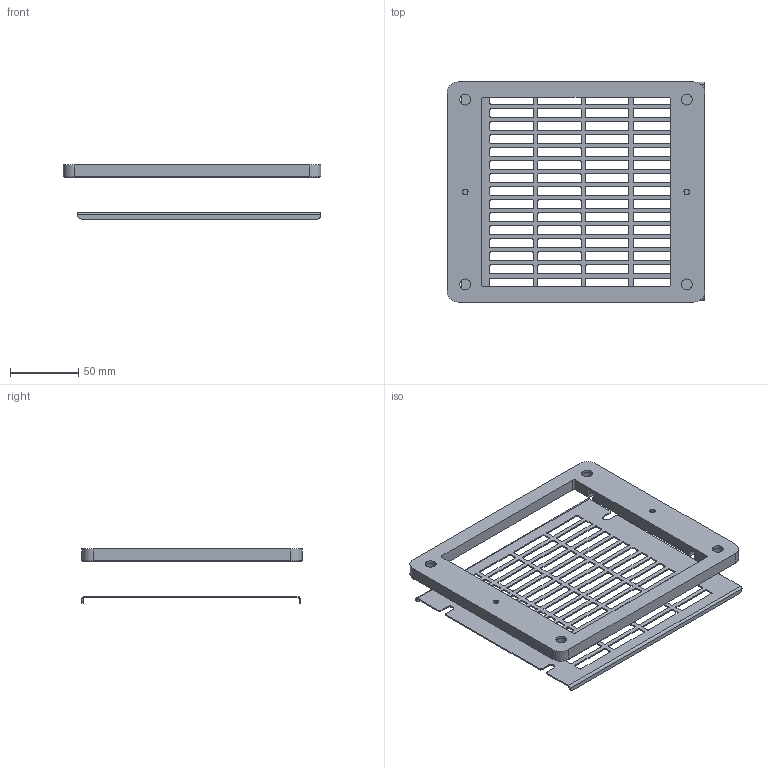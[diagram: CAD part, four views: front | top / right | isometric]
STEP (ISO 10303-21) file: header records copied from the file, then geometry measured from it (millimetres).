
FILE_DESCRIPTION (( 'STEP AP214' ), '1' );
FILE_NAME ('T4EMC.STEP', '2018-08-30T16:03:36', ( '' ), ( '' ), 'SwSTEP 2.0', 'SolidWorks 2016', '' );
FILE_SCHEMA (( 'AUTOMOTIVE_DESIGN' ));
Length unit declared in the file: inch
Products named in the file (3): 87742412; 87558509; T4EMC
Assembly tree (2 placements, depth 2):
  T4EMC
    87558509
    87742412
Bounding box: 188.59 x 161.04 x 39.69 mm (x, y, z)
Volume: 114440.2 mm3; surface area: 75389.4 mm2
Topology: 2 solids, 2 shells, 644 faces, 1878 edges, 1244 vertices
Faces by surface type: plane 326, cylinder 310, cone 8
Entity records: 21838 total; most frequent: DIRECTION 3796, CARTESIAN_POINT 3795, ORIENTED_EDGE 3756, EDGE_CURVE 1878, AXIS2_PLACEMENT_3D 1277, VERTEX_POINT 1244, VECTOR 1242, LINE 1242
